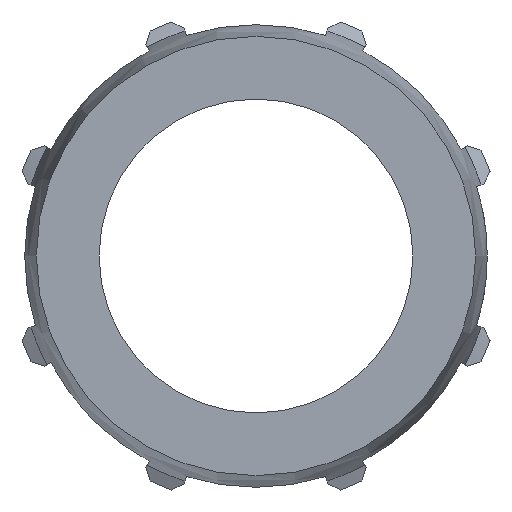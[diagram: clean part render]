
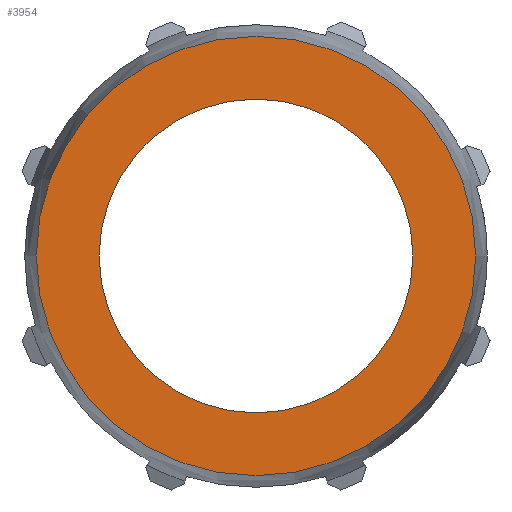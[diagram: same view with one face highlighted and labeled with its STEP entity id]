
A CAD part, left-side view. The second image highlights one B-rep face of the part: STEP entity #3954.
In plain terms, the highlighted planar face has unit normal (-1, 0, 0).
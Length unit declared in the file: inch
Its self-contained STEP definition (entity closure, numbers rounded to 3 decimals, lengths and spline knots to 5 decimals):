
#62=FACE_BOUND('',#542,.T.);
#176=PLANE('',#4300);
#322=FACE_OUTER_BOUND('',#541,.T.);
#541=EDGE_LOOP('',(#3112,#3113));
#542=EDGE_LOOP('',(#3114,#3115));
#789=CIRCLE('',#4298,3.14449);
#790=CIRCLE('',#4299,3.14449);
#791=CIRCLE('',#4301,2.24606);
#792=CIRCLE('',#4302,2.24606);
#1772=VERTEX_POINT('',#6450);
#1773=VERTEX_POINT('',#6451);
#1774=VERTEX_POINT('',#6456);
#1775=VERTEX_POINT('',#6457);
#2267=EDGE_CURVE('',#1772,#1773,#789,.T.);
#2269=EDGE_CURVE('',#1773,#1772,#790,.T.);
#2270=EDGE_CURVE('',#1774,#1775,#791,.T.);
#2271=EDGE_CURVE('',#1775,#1774,#792,.T.);
#3112=ORIENTED_EDGE('',*,*,#2267,.F.);
#3113=ORIENTED_EDGE('',*,*,#2269,.F.);
#3114=ORIENTED_EDGE('',*,*,#2270,.T.);
#3115=ORIENTED_EDGE('',*,*,#2271,.T.);
#3954=ADVANCED_FACE('',(#322,#62),#176,.F.);
#4298=AXIS2_PLACEMENT_3D('',#6452,#5069,#5070);
#4299=AXIS2_PLACEMENT_3D('',#6454,#5072,#5073);
#4300=AXIS2_PLACEMENT_3D('',#6455,#5074,#5075);
#4301=AXIS2_PLACEMENT_3D('',#6458,#5076,#5077);
#4302=AXIS2_PLACEMENT_3D('',#6459,#5078,#5079);
#5069=DIRECTION('center_axis',(1.,0.,0.));
#5070=DIRECTION('ref_axis',(0.,0.,-1.));
#5072=DIRECTION('center_axis',(1.,0.,0.));
#5073=DIRECTION('ref_axis',(0.,0.,-1.));
#5074=DIRECTION('center_axis',(1.,0.,0.));
#5075=DIRECTION('ref_axis',(0.,0.,-1.));
#5076=DIRECTION('center_axis',(1.,0.,0.));
#5077=DIRECTION('ref_axis',(0.,0.,-1.));
#5078=DIRECTION('center_axis',(1.,0.,0.));
#5079=DIRECTION('ref_axis',(0.,0.,-1.));
#6450=CARTESIAN_POINT('',(-7.735,3.14449,0.));
#6451=CARTESIAN_POINT('',(-7.735,-3.14449,0.));
#6452=CARTESIAN_POINT('Origin',(-7.735,0.,0.));
#6454=CARTESIAN_POINT('Origin',(-7.735,0.,0.));
#6455=CARTESIAN_POINT('Origin',(-7.735,2.24606,0.));
#6456=CARTESIAN_POINT('',(-7.735,2.24606,0.));
#6457=CARTESIAN_POINT('',(-7.735,-2.24606,0.));
#6458=CARTESIAN_POINT('Origin',(-7.735,0.,0.));
#6459=CARTESIAN_POINT('Origin',(-7.735,0.,0.));
